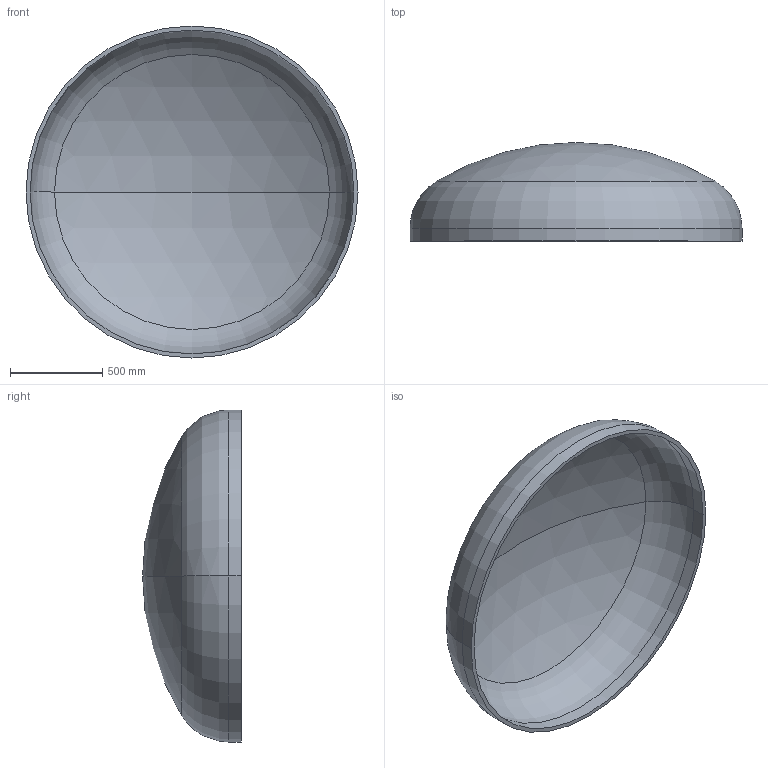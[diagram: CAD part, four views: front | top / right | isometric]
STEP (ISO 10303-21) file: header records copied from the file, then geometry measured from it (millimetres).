
FILE_DESCRIPTION (( 'STEP AP203' ), '1' );
FILE_NAME ('DIN 28013 Korbbogenform_-_Boden DIN 28013 - 1800 x 70 - I - s=22.step', '2016-07-01T12:22:00', ( '' ), ( '' ), 'SwSTEP 2.0', 'SolidWorks 2013', '' );
FILE_SCHEMA (( 'CONFIG_CONTROL_DESIGN' ));
Length unit declared in the file: millimetre
Products named in the file (1): DIN 28013 Korbbogenform_-_Boden DIN 28013 - 1800 x 70 - I - s=22
Bounding box: 1800 x 535.2 x 1800 mm (x, y, z)
Volume: 84776069.8 mm3; surface area: 7830812.9 mm2
Topology: 1 solids, 1 shells, 13 faces, 24 edges, 14 vertices
Faces by surface type: torus 4, cylinder 4, sphere 4, plane 1
Entity records: 407 total; most frequent: DIRECTION 72, CARTESIAN_POINT 52, ORIENTED_EDGE 48, AXIS2_PLACEMENT_3D 34, EDGE_CURVE 24, CIRCLE 20, VERTEX_POINT 14, EDGE_LOOP 14
